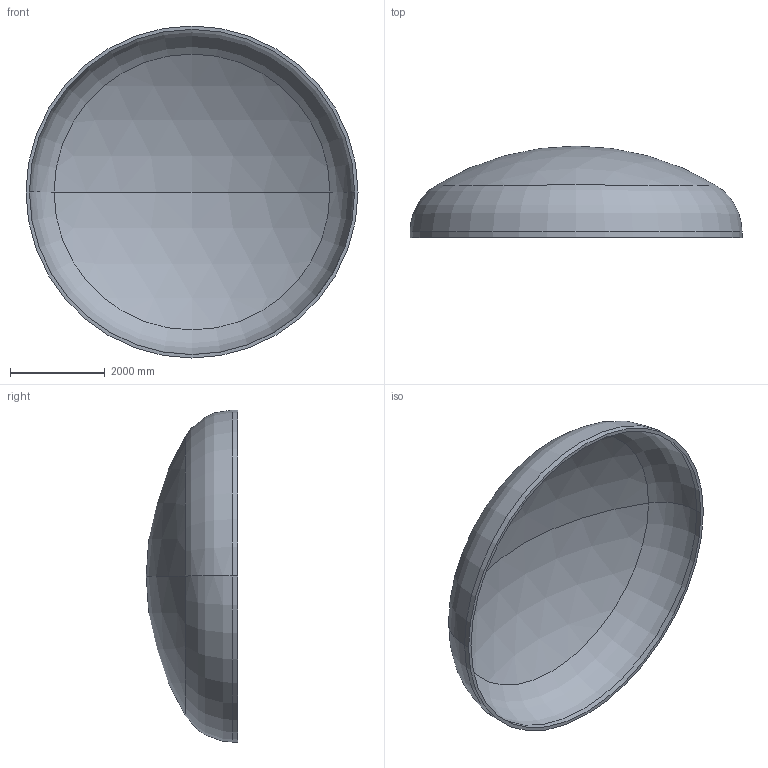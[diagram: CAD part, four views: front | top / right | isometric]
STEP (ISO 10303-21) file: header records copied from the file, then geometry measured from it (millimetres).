
FILE_DESCRIPTION (( 'STEP AP203' ), '1' );
FILE_NAME ('DIN 28013 Korbbogenform_-_Boden DIN 28013 - 7000 x 120 - I - s=72.step', '2016-07-04T10:48:53', ( '' ), ( '' ), 'SwSTEP 2.0', 'SolidWorks 2013', '' );
FILE_SCHEMA (( 'CONFIG_CONTROL_DESIGN' ));
Length unit declared in the file: millimetre
Products named in the file (1): DIN 28013 Korbbogenform_-_Boden DIN 28013 - 7000 x 120 - I - s=72
Bounding box: 7000 x 1929.71 x 7000 mm (x, y, z)
Volume: 3975214542.6 mm3; surface area: 112000517.9 mm2
Topology: 1 solids, 1 shells, 13 faces, 24 edges, 14 vertices
Faces by surface type: torus 4, cylinder 4, sphere 4, plane 1
Entity records: 407 total; most frequent: DIRECTION 72, CARTESIAN_POINT 52, ORIENTED_EDGE 48, AXIS2_PLACEMENT_3D 34, EDGE_CURVE 24, CIRCLE 20, EDGE_LOOP 14, VERTEX_POINT 14
